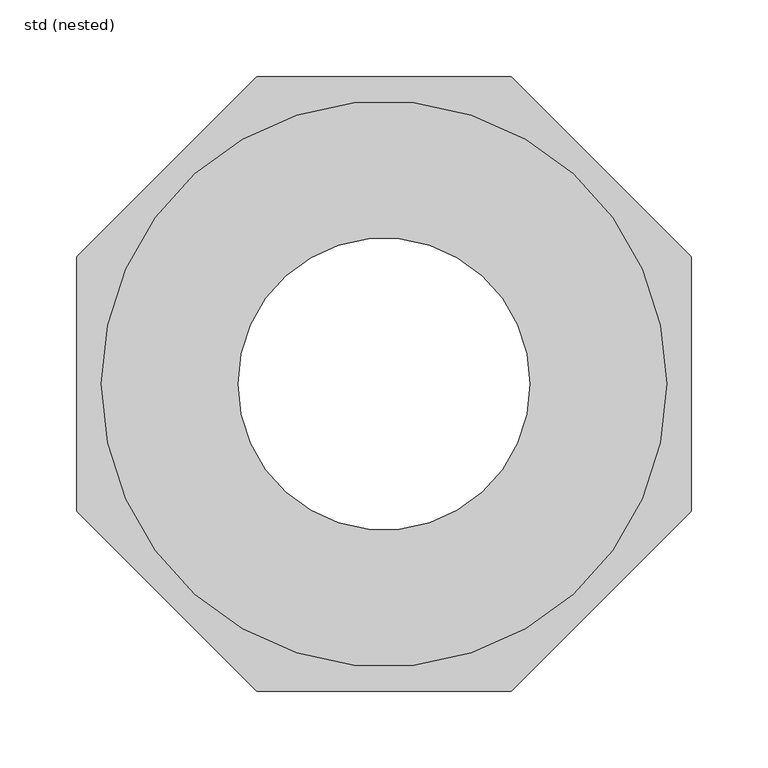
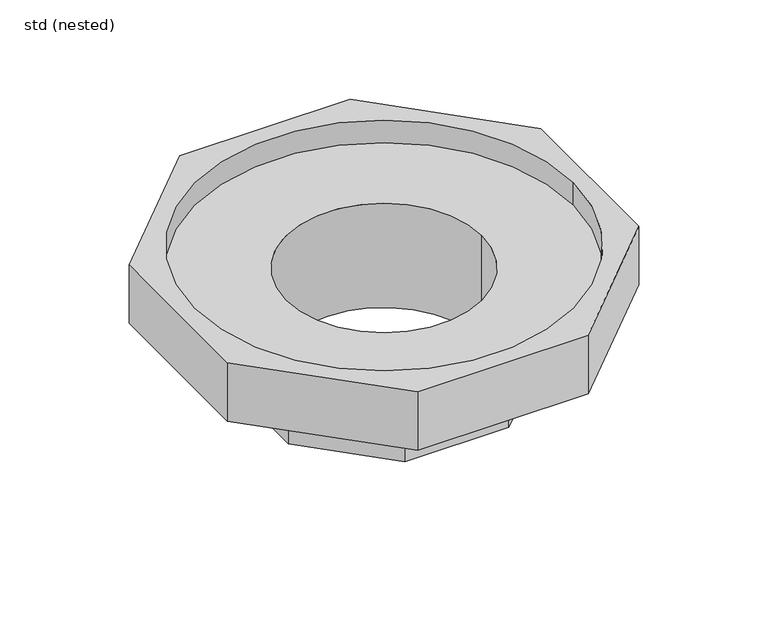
"""IFC4 building model written with IfcOpenShell, lengths in millimetres: sanitary terminal geometry, ZZZ_do not use_PF_CG_WPB_insulating body lower section for Passavant Jet_ACO : std (nested)."""

from ifc_helpers import new_model, si_unit, frame, origin, place, context, project, spatial, polyline, circle_curve, source, transform, mapped, element, save
from ifc_brep_helpers import plane_surface, revolved_surface, advanced_brep


def std_nested_3392732c(model_context):
    return source(origin(), model_context, "Body", "AdvancedBrep", [
        advanced_brep(
        [(-82.8427125, 200.0, -60.0), (82.8427125, 200.0, -60.0), (200.0, 82.8427125, -60.0), (200.0, -82.8427125, -60.0), (82.8427125, -200.0, -60.0), (-82.8427125, -200.0, -60.0), (-200.0, -82.8427125, -60.0), (-200.0, 82.8427125, -60.0), (50.7411614, 122.5, -60.0), (-50.7411614, 122.5, -60.0), (-122.5, 50.7411614, -60.0), (-122.5, -50.7411614, -60.0), (-50.7411614, -122.5, -60.0), (50.7411614, -122.5, -60.0), (122.5, -50.7411614, -60.0), (122.5, 50.7411614, -60.0), (-82.8427125, 200.0, 0.0), (-200.0, 82.8427125, 0.0), (-200.0, -82.8427125, 0.0), (-82.8427125, -200.0, 0.0), (82.8427125, -200.0, 0.0), (200.0, -82.8427125, 0.0), (200.0, 82.8427125, 0.0), (82.8427125, 200.0, 0.0), (184.0, 0.0, 0.0), (-184.0, 0.0, 0.0), (-184.0, 0.0, -23.0), (184.0, 0.0, -23.0), (95.0, 0.0, -23.0), (-95.0, 0.0, -23.0), (95.0, 0.0, -130.0), (-95.0, 0.0, -130.0), (50.7411614, 122.5, -130.0), (122.5, 50.7411614, -130.0), (122.5, -50.7411614, -130.0), (50.7411614, -122.5, -130.0), (-50.7411614, -122.5, -130.0), (-122.5, -50.7411614, -130.0), (-122.5, 50.7411614, -130.0), (-50.7411614, 122.5, -130.0)],
        [
            (0, 1),
            (1, 2),
            (2, 3),
            (3, 4),
            (4, 5),
            (5, 6),
            (6, 7),
            (7, 0),
            (8, 9),
            (9, 10),
            (10, 11),
            (11, 12),
            (12, 13),
            (13, 14),
            (14, 15),
            (15, 8),
            (16, 17),
            (17, 18),
            (18, 19),
            (19, 20),
            (20, 21),
            (21, 22),
            (22, 23),
            (23, 16),
            (24, 25, circle_curve(frame((0.0, 0.0, 0.0), z_axis=(0.0, 0.0, -1.0), x_axis=(1.0, 0.0, 0.0)), 184.0)),
            (25, 24, circle_curve(frame((0.0, 0.0, 0.0), z_axis=(0.0, 0.0, -1.0), x_axis=(1.0, 0.0, 0.0)), 184.0)),
            (7, 17),
            (16, 0),
            (6, 18),
            (5, 19),
            (4, 20),
            (3, 21),
            (2, 22),
            (1, 23),
            (26, 27, circle_curve(frame((0.0, 0.0, -23.0), z_axis=(0.0, 0.0, 1.0), x_axis=(1.0, 0.0, 0.0)), 184.0)),
            (27, 26, circle_curve(frame((0.0, 0.0, -23.0), z_axis=(0.0, 0.0, 1.0), x_axis=(1.0, 0.0, 0.0)), 184.0)),
            (28, 29, circle_curve(frame((0.0, 0.0, -23.0), z_axis=(0.0, 0.0, -1.0), x_axis=(1.0, 0.0, 0.0)), 95.0)),
            (29, 28, circle_curve(frame((0.0, 0.0, -23.0), z_axis=(0.0, 0.0, -1.0), x_axis=(1.0, 0.0, 0.0)), 95.0)),
            (26, 25),
            (24, 27),
            (28, 30),
            (30, 31, circle_curve(frame((0.0, 0.0, -130.0), z_axis=(0.0, 0.0, -1.0), x_axis=(1.0, 0.0, 0.0)), 95.0)),
            (31, 29),
            (31, 30, circle_curve(frame((0.0, 0.0, -130.0), z_axis=(0.0, 0.0, -1.0), x_axis=(1.0, 0.0, 0.0)), 95.0)),
            (32, 33),
            (33, 34),
            (34, 35),
            (35, 36),
            (36, 37),
            (37, 38),
            (38, 39),
            (39, 32),
            (39, 9),
            (8, 32),
            (38, 10),
            (37, 11),
            (36, 12),
            (35, 13),
            (34, 14),
            (33, 15),
        ],
        [
            plane_surface(frame((-200.0, 82.8427125, -60.0), z_axis=(0.0, 0.0, -1.0), x_axis=(0.707106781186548, 0.707106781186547, 0.0))),
            plane_surface(frame((-200.0, 82.8427125, 0.0), z_axis=(0.0, 0.0, 1.0), x_axis=(-0.707106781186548, -0.707106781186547, 0.0))),
            plane_surface(frame((-82.8427125, 200.0, 0.0), z_axis=(-0.707106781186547, 0.707106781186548, 0.0), x_axis=(0.0, 0.0, -1.0))),
            plane_surface(frame((-200.0, 82.8427125, 0.0), z_axis=(-1.0, 0.0, 0.0), x_axis=(0.0, 0.0, -1.0))),
            plane_surface(frame((-200.0, -82.8427125, 0.0), z_axis=(-0.7071067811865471, -0.7071067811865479, 0.0), x_axis=(0.0, 0.0, -1.0))),
            plane_surface(frame((-82.8427125, -200.0, 0.0), z_axis=(0.0, -1.0, 0.0), x_axis=(0.0, 0.0, -1.0))),
            plane_surface(frame((82.8427125, -200.0, 0.0), z_axis=(0.7071067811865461, -0.707106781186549, 0.0), x_axis=(0.0, 0.0, -1.0))),
            plane_surface(frame((200.0, -82.8427125, 0.0), z_axis=(1.0, 0.0, 0.0), x_axis=(0.0, 0.0, -1.0))),
            plane_surface(frame((200.0, 82.8427125, 0.0), z_axis=(0.7071067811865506, 0.7071067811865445, 0.0), x_axis=(0.0, 0.0, -1.0))),
            plane_surface(frame((82.8427125, 200.0, 0.0), z_axis=(0.0, 1.0, 0.0), x_axis=(0.0, 0.0, -1.0))),
            plane_surface(frame((184.0, 0.0, -23.0), z_axis=(0.0, 0.0, 1.0), x_axis=(0.0, -1.0, 0.0))),
            revolved_surface(polyline([(184.0, 0.0, 0.0), (184.0, 0.0, -23.0)]), (0.0, 0.0, -23.0), (0.0, 0.0, 1.0)),
            revolved_surface(polyline([(95.0, 0.0, -23.0), (95.0, 0.0, -130.0)]), (0.0, 0.0, -130.0), (0.0, 0.0, 1.0)),
            plane_surface(frame((50.7411614, 122.5, -130.0), z_axis=(0.0, 0.0, -1.0), x_axis=(1.0, 0.0, 0.0))),
            plane_surface(frame((50.7411614, 122.5, -60.0), z_axis=(0.0, 1.0, 0.0), x_axis=(0.0, 0.0, -1.0))),
            plane_surface(frame((-50.7411614, 122.5, -60.0), z_axis=(-0.7071067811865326, 0.7071067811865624, 0.0), x_axis=(0.0, 0.0, -1.0))),
            plane_surface(frame((-122.5, 50.7411614, -60.0), z_axis=(-1.0, 0.0, 0.0), x_axis=(0.0, 0.0, -1.0))),
            plane_surface(frame((-122.5, -50.7411614, -60.0), z_axis=(-0.7071067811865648, -0.7071067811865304, 0.0), x_axis=(0.0, 0.0, -1.0))),
            plane_surface(frame((-50.7411614, -122.5, -60.0), z_axis=(0.0, -1.0, 0.0), x_axis=(0.0, 0.0, -1.0))),
            plane_surface(frame((50.7411614, -122.5, -60.0), z_axis=(0.7071067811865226, -0.7071067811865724, 0.0), x_axis=(0.0, 0.0, -1.0))),
            plane_surface(frame((122.5, -50.7411614, -60.0), z_axis=(1.0, 0.0, 0.0), x_axis=(0.0, 0.0, -1.0))),
            plane_surface(frame((122.5, 50.7411614, -60.0), z_axis=(0.7071067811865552, 0.7071067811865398, 0.0), x_axis=(0.0, 0.0, -1.0))),
        ],
        [
            (0, [[1, 2, 3, 4, 5, 6, 7, 8], [9, 10, 11, 12, 13, 14, 15, 16]]),
            (1, [[17, 18, 19, 20, 21, 22, 23, 24], [25, 26]]),
            (2, [[-8, 27, -17, 28]]),
            (3, [[-7, 29, -18, -27]]),
            (4, [[-6, 30, -19, -29]]),
            (5, [[-5, 31, -20, -30]]),
            (6, [[-4, 32, -21, -31]]),
            (7, [[-3, 33, -22, -32]]),
            (8, [[-2, 34, -23, -33]]),
            (9, [[-1, -28, -24, -34]]),
            (10, [[35, 36], [37, 38]]),
            (11, [[-35, 39, -25, 40]]),
            (11, [[-36, -40, -26, -39]]),
            (12, [[41, 42, 43, -37]]),
            (12, [[-41, -38, -43, 44]]),
            (13, [[45, 46, 47, 48, 49, 50, 51, 52], [-42, -44]]),
            (14, [[-52, 53, -9, 54]]),
            (15, [[-51, 55, -10, -53]]),
            (16, [[-50, 56, -11, -55]]),
            (17, [[-49, 57, -12, -56]]),
            (18, [[-48, 58, -13, -57]]),
            (19, [[-47, 59, -14, -58]]),
            (20, [[-46, 60, -15, -59]]),
            (21, [[-45, -54, -16, -60]]),
        ],
    ),
    ])


if __name__ == "__main__":
    model = new_model("IFC4")
    model_context = context("Model", 3, world=origin())
    ifc_project = project(units=[si_unit("LENGTHUNIT", "METRE", prefix="MILLI")], contexts=[model_context])
    site = spatial("IfcSite", under=ifc_project)
    building = spatial("IfcBuilding", under=site)
    placement = place(None, origin())
    std_nested_shape = std_nested_3392732c(model_context)
    element("IfcSanitaryTerminal", 1, ObjectType="ZZZ_do not use_PF_CG_WPB_insulating body lower section for Passavant Jet_ACO : std (nested)", at=placement, inside=building, context=model_context, shape_type="MappedRepresentation", body=[
        mapped(std_nested_shape, transform((0.0, 0.0, 0.0), x_axis=(1.0, 0.0, 0.0), y_axis=(0.0, 1.0, 0.0), z_axis=(0.0, 0.0, 1.0))),
    ])
    save(model, "model.ifc")
